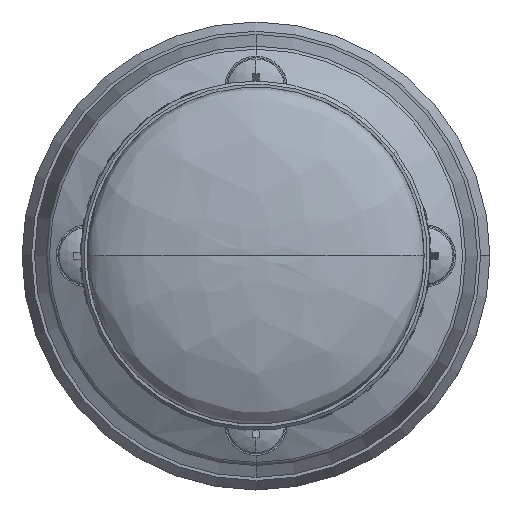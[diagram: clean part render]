
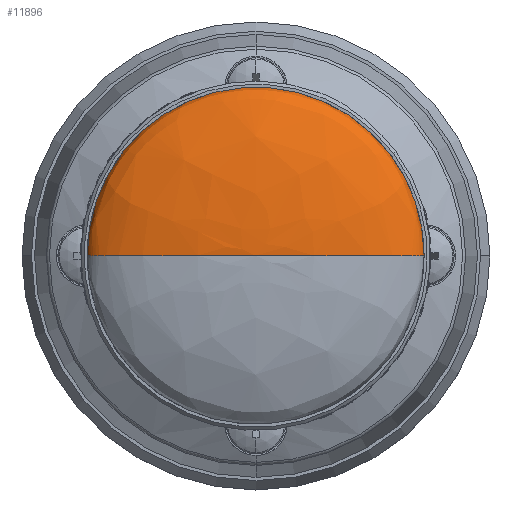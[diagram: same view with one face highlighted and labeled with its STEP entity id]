
A CAD part, top view. The second image highlights one B-rep face of the part: STEP entity #11896.
In plain terms, the highlighted free-form (B-spline) face has degree [2, 3] with [3, 4] control points.
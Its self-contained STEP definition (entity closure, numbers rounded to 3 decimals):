
#287 = VERTEX_POINT ( 'NONE', #3548 ) ;
#1194 = CIRCLE ( 'NONE', #35341, 27. ) ;
#1438 = CARTESIAN_POINT ( 'NONE',  ( -27., 0., 217.91 ) ) ;
#2207 = CARTESIAN_POINT ( 'NONE',  ( -27., 54., 224.91 ) ) ;
#3212 = DIRECTION ( 'NONE',  ( -1., 0., 0. ) ) ;
#3548 = CARTESIAN_POINT ( 'NONE',  ( 0., 0., 224.91 ) ) ;
#7137 = CARTESIAN_POINT ( 'NONE',  ( 0., 0., 224.91 ) ) ;
#10719 = CARTESIAN_POINT ( 'NONE',  ( -27., 0., 217.91 ) ) ;
#11458 = ORIENTED_EDGE ( 'NONE', *, *, #75726, .F. ) ;
#11896 = ADVANCED_FACE ( 'NONE', ( #51980 ), #79565, .T. ) ;
#11954 = CIRCLE ( 'NONE', #39474, 27. ) ;
#12700 = EDGE_LOOP ( 'NONE', ( #59303, #60168, #60884, #11458 ) ) ;
#14183 = CARTESIAN_POINT ( 'NONE',  ( 27., 0., 224.91 ) ) ;
#14474 =( BOUNDED_CURVE ( )  B_SPLINE_CURVE ( 2, ( #37665, #62394, #49578 ),
 .UNSPECIFIED., .F., .F. ) 
 B_SPLINE_CURVE_WITH_KNOTS ( ( 3, 3 ),
 ( 0., 1.571 ),
 .UNSPECIFIED. ) 
 CURVE ( )  GEOMETRIC_REPRESENTATION_ITEM ( )  RATIONAL_B_SPLINE_CURVE ( ( 1., 0.707, 1. ) ) 
 REPRESENTATION_ITEM ( '' )  );
#14592 = CARTESIAN_POINT ( 'NONE',  ( -27., 54., 217.91 ) ) ;
#18642 = CARTESIAN_POINT ( 'NONE',  ( -27., 0., 217.91 ) ) ;
#19947 = CARTESIAN_POINT ( 'NONE',  ( 0., 0., 224.91 ) ) ;
#22261 = CARTESIAN_POINT ( 'NONE',  ( 0., 0., 224.91 ) ) ;
#22996 = DIRECTION ( 'NONE',  ( -1., 0., 0. ) ) ;
#27370 = VERTEX_POINT ( 'NONE', #41403 ) ;
#29656 = CARTESIAN_POINT ( 'NONE',  ( -27., 0., 224.91 ) ) ;
#31796 = EDGE_CURVE ( 'NONE', #35377, #287, #68082, .T. ) ;
#31906 = VERTEX_POINT ( 'NONE', #50857 ) ;
#35341 = AXIS2_PLACEMENT_3D ( 'NONE', #73615, #80927, #22996 ) ;
#35377 = VERTEX_POINT ( 'NONE', #18642 ) ;
#36495 = EDGE_CURVE ( 'NONE', #35377, #27370, #11954, .T. ) ;
#37665 = CARTESIAN_POINT ( 'NONE',  ( 27., 0., 217.91 ) ) ;
#39474 = AXIS2_PLACEMENT_3D ( 'NONE', #67439, #80125, #3212 ) ;
#39603 = CARTESIAN_POINT ( 'NONE',  ( 27., 0., 217.91 ) ) ;
#41403 = CARTESIAN_POINT ( 'NONE',  ( -2.118, 26.917, 217.91 ) ) ;
#49578 = CARTESIAN_POINT ( 'NONE',  ( 0., 0., 224.91 ) ) ;
#50364 = CARTESIAN_POINT ( 'NONE',  ( 27., 54., 217.91 ) ) ;
#50857 = CARTESIAN_POINT ( 'NONE',  ( 27., 0., 217.91 ) ) ;
#51567 = CARTESIAN_POINT ( 'NONE',  ( 27., 54., 224.91 ) ) ;
#51980 = FACE_OUTER_BOUND ( 'NONE', #12700, .T. ) ;
#56472 = EDGE_CURVE ( 'NONE', #31906, #287, #14474, .T. ) ;
#59303 = ORIENTED_EDGE ( 'NONE', *, *, #36495, .F. ) ;
#60168 = ORIENTED_EDGE ( 'NONE', *, *, #31796, .T. ) ;
#60884 = ORIENTED_EDGE ( 'NONE', *, *, #56472, .F. ) ;
#62394 = CARTESIAN_POINT ( 'NONE',  ( 27., 0., 224.91 ) ) ;
#64773 = CARTESIAN_POINT ( 'NONE',  ( -27., 0., 224.91 ) ) ;
#67439 = CARTESIAN_POINT ( 'NONE',  ( 0., 0., 217.91 ) ) ;
#68082 =( BOUNDED_CURVE ( )  B_SPLINE_CURVE ( 2, ( #10719, #29656, #22261 ),
 .UNSPECIFIED., .F., .F. ) 
 B_SPLINE_CURVE_WITH_KNOTS ( ( 3, 3 ),
 ( 0., 1.571 ),
 .UNSPECIFIED. ) 
 CURVE ( )  GEOMETRIC_REPRESENTATION_ITEM ( )  RATIONAL_B_SPLINE_CURVE ( ( 1., 0.707, 1. ) ) 
 REPRESENTATION_ITEM ( '' )  );
#69358 = CARTESIAN_POINT ( 'NONE',  ( 0., 0., 224.91 ) ) ;
#73615 = CARTESIAN_POINT ( 'NONE',  ( 0., 0., 217.91 ) ) ;
#75726 = EDGE_CURVE ( 'NONE', #27370, #31906, #1194, .T. ) ;
#76320 = CARTESIAN_POINT ( 'NONE',  ( 0., 0., 224.91 ) ) ;
#79565 =( BOUNDED_SURFACE ( )  B_SPLINE_SURFACE ( 2, 3, ( 
 ( #1438, #14592, #50364, #39603 ),
 ( #64773, #2207, #51567, #14183 ),
 ( #7137, #76320, #19947, #69358 ) ),
 .UNSPECIFIED., .F., .F., .F. ) 
 B_SPLINE_SURFACE_WITH_KNOTS ( ( 3, 3 ),
 ( 4, 4 ),
 ( 0., 1.571 ),
 ( 0., 1. ),
 .UNSPECIFIED. ) 
 GEOMETRIC_REPRESENTATION_ITEM ( )  RATIONAL_B_SPLINE_SURFACE ( (
 ( 1., 0.333, 0.333, 1.),
 ( 0.707, 0.236, 0.236, 0.707),
 ( 1., 0.333, 0.333, 1.) ) ) 
 REPRESENTATION_ITEM ( '' )  SURFACE ( )  );
#80125 = DIRECTION ( 'NONE',  ( 0., 0., -1. ) ) ;
#80927 = DIRECTION ( 'NONE',  ( 0., 0., -1. ) ) ;
